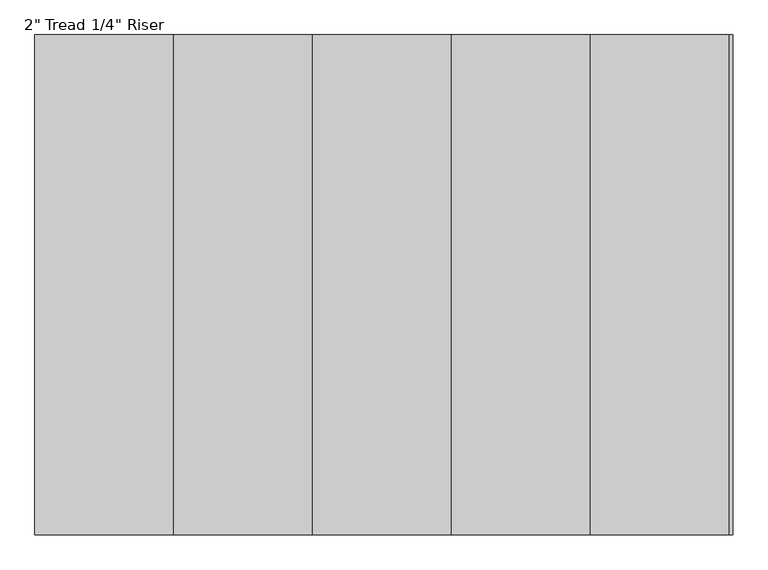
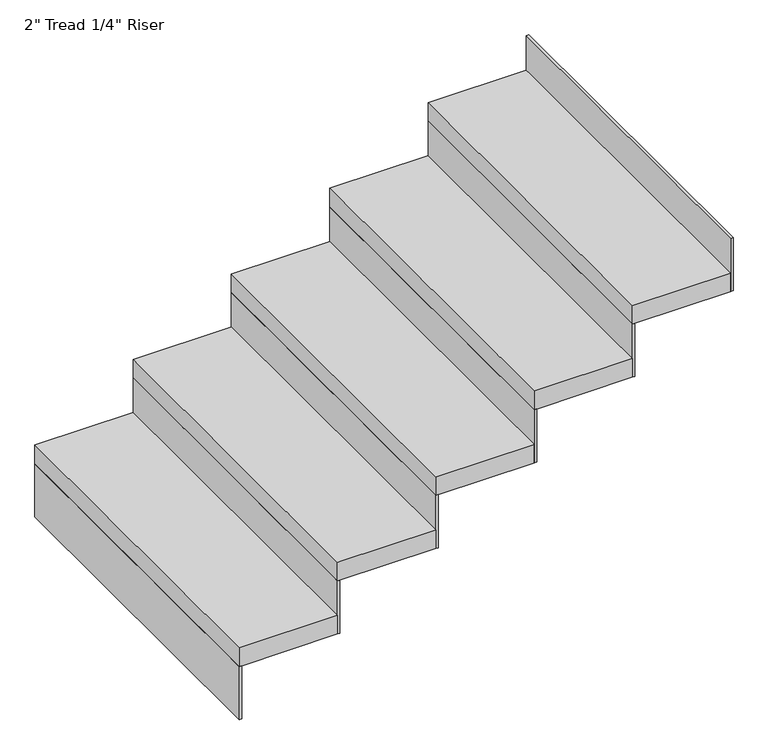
"""IFC4 building model written with IfcOpenShell, lengths in millimetres: stair flight geometry."""

from ifc_helpers import new_model, si_unit, frame, origin, place, context, project, spatial, polyline, outline, extrude, source, transform, mapped, element, save


def stair_flight_ff462502(model_context):
    return source(origin(), model_context, "Body", "SweptSolid", [
        extrude(outline(polyline([(34250.3491768, 36015.7361774), (34243.9991768, 36015.7361774), (34243.9991768, 36930.1361774), (34250.3491768, 36930.1361774), (34250.3491768, 36015.7361774)])), frame((0.0, 0.0, 2126.3428571), z_axis=(0.0, 0.0, 1.0), x_axis=(1.0, 0.0, 0.0)), (0.0, 0.0, 1.0), 145.1428571),
        extrude(outline(polyline([(34497.9991768, 36930.1361774), (34497.9991768, 36015.7361774), (34243.9991768, 36015.7361774), (34243.9991768, 36930.1361774), (34497.9991768, 36930.1361774)])), frame((0.0, 0.0, 2271.4857143), z_axis=(0.0, 0.0, 1.0), x_axis=(1.0, 0.0, 0.0)), (0.0, 0.0, 1.0), 50.8),
        extrude(outline(polyline([(34504.3491768, 36015.7361774), (34497.9991768, 36015.7361774), (34497.9991768, 36930.1361774), (34504.3491768, 36930.1361774), (34504.3491768, 36015.7361774)])), frame((0.0, 0.0, 2271.4857143), z_axis=(0.0, 0.0, 1.0), x_axis=(1.0, 0.0, 0.0)), (0.0, 0.0, 1.0), 145.1428571),
        extrude(outline(polyline([(34751.9991768, 36930.1361774), (34751.9991768, 36015.7361774), (34497.9991768, 36015.7361774), (34497.9991768, 36930.1361774), (34751.9991768, 36930.1361774)])), frame((0.0, 0.0, 2416.6285714), z_axis=(0.0, 0.0, 1.0), x_axis=(1.0, 0.0, 0.0)), (0.0, 0.0, 1.0), 50.8),
        extrude(outline(polyline([(34758.3491768, 36015.7361774), (34751.9991768, 36015.7361774), (34751.9991768, 36930.1361774), (34758.3491768, 36930.1361774), (34758.3491768, 36015.7361774)])), frame((0.0, 0.0, 2416.6285714), z_axis=(0.0, 0.0, 1.0), x_axis=(1.0, 0.0, 0.0)), (0.0, 0.0, 1.0), 145.1428571),
        extrude(outline(polyline([(35005.9991768, 36930.1361774), (35005.9991768, 36015.7361774), (34751.9991768, 36015.7361774), (34751.9991768, 36930.1361774), (35005.9991768, 36930.1361774)])), frame((0.0, 0.0, 2561.7714286), z_axis=(0.0, 0.0, 1.0), x_axis=(1.0, 0.0, 0.0)), (0.0, 0.0, 1.0), 50.8),
        extrude(outline(polyline([(35012.3491768, 36015.7361774), (35005.9991768, 36015.7361774), (35005.9991768, 36930.1361774), (35012.3491768, 36930.1361774), (35012.3491768, 36015.7361774)])), frame((0.0, 0.0, 2561.7714286), z_axis=(0.0, 0.0, 1.0), x_axis=(1.0, 0.0, 0.0)), (0.0, 0.0, 1.0), 145.1428571),
        extrude(outline(polyline([(35259.9991768, 36930.1361774), (35259.9991768, 36015.7361774), (35005.9991768, 36015.7361774), (35005.9991768, 36930.1361774), (35259.9991768, 36930.1361774)])), frame((0.0, 0.0, 2706.9142857), z_axis=(0.0, 0.0, 1.0), x_axis=(1.0, 0.0, 0.0)), (0.0, 0.0, 1.0), 50.8),
        extrude(outline(polyline([(35266.3491768, 36015.7361774), (35259.9991768, 36015.7361774), (35259.9991768, 36930.1361774), (35266.3491768, 36930.1361774), (35266.3491768, 36015.7361774)])), frame((0.0, 0.0, 2706.9142857), z_axis=(0.0, 0.0, 1.0), x_axis=(1.0, 0.0, 0.0)), (0.0, 0.0, 1.0), 145.1428571),
        extrude(outline(polyline([(35520.3491768, 36015.7361774), (35513.9991768, 36015.7361774), (35513.9991768, 36930.1361774), (35520.3491768, 36930.1361774), (35520.3491768, 36015.7361774)])), frame((0.0, 0.0, 2852.0571429), z_axis=(0.0, 0.0, 1.0), x_axis=(1.0, 0.0, 0.0)), (0.0, 0.0, 1.0), 145.1428571),
        extrude(outline(polyline([(35513.9991768, 36930.1361774), (35513.9991768, 36015.7361774), (35259.9991768, 36015.7361774), (35259.9991768, 36930.1361774), (35513.9991768, 36930.1361774)])), frame((0.0, 0.0, 2852.0571429), z_axis=(0.0, 0.0, 1.0), x_axis=(1.0, 0.0, 0.0)), (0.0, 0.0, 1.0), 50.8),
    ])


if __name__ == "__main__":
    model = new_model("IFC4")
    model_context = context("Model", 3, world=origin())
    ifc_project = project(units=[si_unit("LENGTHUNIT", "METRE", prefix="MILLI")], contexts=[model_context])
    site = spatial("IfcSite", under=ifc_project)
    building = spatial("IfcBuilding", under=site)
    placement = place(None, origin())
    stair_flight_shape = stair_flight_ff462502(model_context)
    element("IfcStairFlight", 1, ObjectType="2\" Tread 1/4\" Riser", at=placement, inside=building, context=model_context, shape_type="MappedRepresentation", body=[
        mapped(stair_flight_shape, transform((0.0, 0.0, 0.0), x_axis=(1.0, 0.0, 0.0), y_axis=(0.0, 1.0, 0.0), z_axis=(0.0, 0.0, 1.0))),
    ])
    save(model, "model.ifc")
